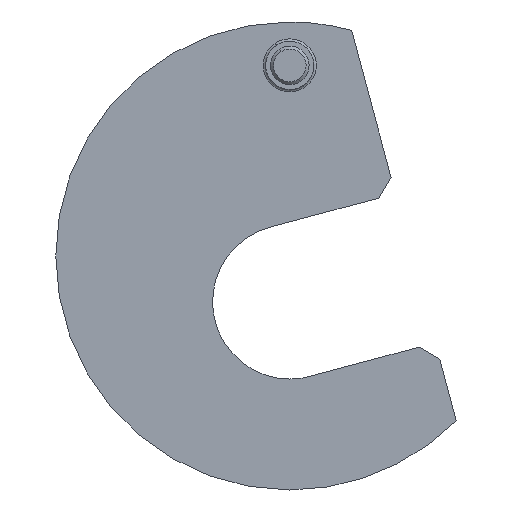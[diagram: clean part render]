
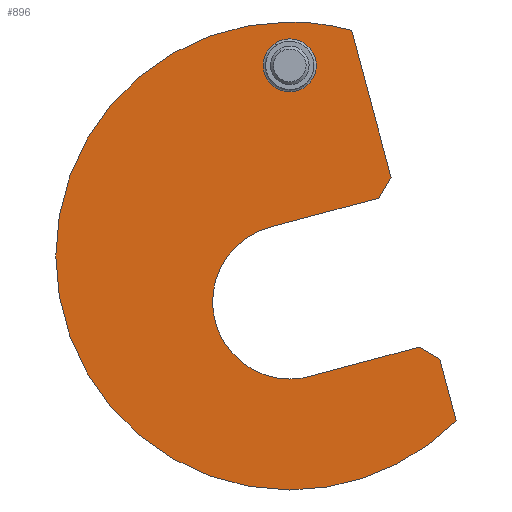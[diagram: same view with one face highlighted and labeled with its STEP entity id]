
A CAD part, front view. The second image highlights one B-rep face of the part: STEP entity #896.
In plain terms, the highlighted planar face has unit normal (0, -1, 0).
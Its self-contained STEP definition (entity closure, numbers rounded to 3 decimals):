
#252 = VERTEX_POINT ( 'NONE', #824 ) ;
#253 = EDGE_CURVE ( 'NONE', #252, #900, #822, .T. ) ;
#267 = EDGE_CURVE ( 'NONE', #272, #271, #847, .T. ) ;
#271 = VERTEX_POINT ( 'NONE', #840 ) ;
#272 = VERTEX_POINT ( 'NONE', #839 ) ;
#274 = ORIENTED_EDGE ( 'NONE', *, *, #253, .F. ) ;
#275 = ORIENTED_EDGE ( 'NONE', *, *, #314, .F. ) ;
#276 = VERTEX_POINT ( 'NONE', #834 ) ;
#278 = EDGE_CURVE ( 'NONE', #333, #276, #833, .T. ) ;
#279 = ORIENTED_EDGE ( 'NONE', *, *, #320, .F. ) ;
#296 = VERTEX_POINT ( 'NONE', #912 ) ;
#301 = EDGE_CURVE ( 'NONE', #296, #272, #964, .T. ) ;
#314 = EDGE_CURVE ( 'NONE', #336, #252, #998, .T. ) ;
#315 = EDGE_LOOP ( 'NONE', ( #324, #322 ) ) ;
#317 = EDGE_CURVE ( 'NONE', #895, #880, #993, .T. ) ;
#320 = EDGE_CURVE ( 'NONE', #900, #276, #988, .T. ) ;
#322 = ORIENTED_EDGE ( 'NONE', *, *, #317, .T. ) ;
#324 = ORIENTED_EDGE ( 'NONE', *, *, #883, .T. ) ;
#332 = EDGE_CURVE ( 'NONE', #271, #344, #1027, .T. ) ;
#333 = VERTEX_POINT ( 'NONE', #1023 ) ;
#334 = ORIENTED_EDGE ( 'NONE', *, *, #278, .T. ) ;
#335 = ORIENTED_EDGE ( 'NONE', *, *, #337, .F. ) ;
#336 = VERTEX_POINT ( 'NONE', #1022 ) ;
#337 = EDGE_CURVE ( 'NONE', #341, #296, #1021, .T. ) ;
#338 = ORIENTED_EDGE ( 'NONE', *, *, #332, .F. ) ;
#339 = ORIENTED_EDGE ( 'NONE', *, *, #342, .F. ) ;
#340 = ORIENTED_EDGE ( 'NONE', *, *, #343, .T. ) ;
#341 = VERTEX_POINT ( 'NONE', #1016 ) ;
#342 = EDGE_CURVE ( 'NONE', #333, #341, #1015, .T. ) ;
#343 = EDGE_CURVE ( 'NONE', #355, #344, #1011, .T. ) ;
#344 = VERTEX_POINT ( 'NONE', #1007 ) ;
#345 = EDGE_CURVE ( 'NONE', #355, #336, #1006, .T. ) ;
#351 = ORIENTED_EDGE ( 'NONE', *, *, #267, .F. ) ;
#354 = ORIENTED_EDGE ( 'NONE', *, *, #301, .F. ) ;
#355 = VERTEX_POINT ( 'NONE', #1059 ) ;
#818 = DIRECTION ( 'NONE',  ( 0., 0., 1. ) ) ;
#819 = DIRECTION ( 'NONE',  ( 0., -1., 0. ) ) ;
#820 = CARTESIAN_POINT ( 'NONE',  ( 0., 0., -9.5 ) ) ;
#821 = AXIS2_PLACEMENT_3D ( 'NONE', #820, #819, #818 ) ;
#822 = CIRCLE ( 'NONE', #821, 16. ) ;
#824 = CARTESIAN_POINT ( 'NONE',  ( 0., 0., -25.5 ) ) ;
#830 = DIRECTION ( 'NONE',  ( -0.866, 0., 0.5 ) ) ;
#831 = VECTOR ( 'NONE', #830, 1000. ) ;
#832 = CARTESIAN_POINT ( 'NONE',  ( 31.087, 0., -21.358 ) ) ;
#833 = LINE ( 'NONE', #832, #831 ) ;
#834 = CARTESIAN_POINT ( 'NONE',  ( 26.801, 0., -18.883 ) ) ;
#839 = CARTESIAN_POINT ( 'NONE',  ( 0., 0., 48.5 ) ) ;
#840 = CARTESIAN_POINT ( 'NONE',  ( 12.832, 0., 46.772 ) ) ;
#843 = DIRECTION ( 'NONE',  ( 0., 0., 1. ) ) ;
#844 = DIRECTION ( 'NONE',  ( 0., 1., 0. ) ) ;
#845 = CARTESIAN_POINT ( 'NONE',  ( 0., 0., 0. ) ) ;
#846 = AXIS2_PLACEMENT_3D ( 'NONE', #845, #844, #843 ) ;
#847 = CIRCLE ( 'NONE', #846, 48.5 ) ;
#880 = VERTEX_POINT ( 'NONE', #1091 ) ;
#883 = EDGE_CURVE ( 'NONE', #880, #895, #1090, .T. ) ;
#891 = ORIENTED_EDGE ( 'NONE', *, *, #345, .F. ) ;
#892 = EDGE_LOOP ( 'NONE', ( #891, #340, #338, #351, #354, #335, #339, #334, #279, #274, #275 ) ) ;
#895 = VERTEX_POINT ( 'NONE', #1069 ) ;
#896 = ADVANCED_FACE ( 'NONE', ( #1068, #1067 ), #1066, .F. ) ;
#900 = VERTEX_POINT ( 'NONE', #1110 ) ;
#912 = CARTESIAN_POINT ( 'NONE',  ( 0., 0., -48.5 ) ) ;
#956 = DIRECTION ( 'NONE',  ( 0., 0., 1. ) ) ;
#957 = DIRECTION ( 'NONE',  ( 0., 1., 0. ) ) ;
#958 = CARTESIAN_POINT ( 'NONE',  ( 0., 0., 0. ) ) ;
#959 = AXIS2_PLACEMENT_3D ( 'NONE', #958, #957, #956 ) ;
#964 = CIRCLE ( 'NONE', #959, 48.5 ) ;
#985 = DIRECTION ( 'NONE',  ( 0.966, 0., 0.259 ) ) ;
#986 = VECTOR ( 'NONE', #985, 1000. ) ;
#987 = CARTESIAN_POINT ( 'NONE',  ( 4.141, 0., -24.955 ) ) ;
#988 = LINE ( 'NONE', #987, #986 ) ;
#989 = DIRECTION ( 'NONE',  ( 0., 0., 1. ) ) ;
#990 = DIRECTION ( 'NONE',  ( 0., 1., 0. ) ) ;
#991 = CARTESIAN_POINT ( 'NONE',  ( 0., 0., 39.5 ) ) ;
#992 = AXIS2_PLACEMENT_3D ( 'NONE', #991, #990, #989 ) ;
#993 = CIRCLE ( 'NONE', #992, 5.5 ) ;
#994 = DIRECTION ( 'NONE',  ( 0., 0., 1. ) ) ;
#995 = DIRECTION ( 'NONE',  ( 0., -1., 0. ) ) ;
#996 = CARTESIAN_POINT ( 'NONE',  ( 0., 0., -9.5 ) ) ;
#997 = AXIS2_PLACEMENT_3D ( 'NONE', #996, #995, #994 ) ;
#998 = CIRCLE ( 'NONE', #997, 16. ) ;
#1003 = DIRECTION ( 'NONE',  ( -0.966, 0., -0.259 ) ) ;
#1004 = VECTOR ( 'NONE', #1003, 1000. ) ;
#1005 = CARTESIAN_POINT ( 'NONE',  ( -4.141, 0., 5.955 ) ) ;
#1006 = LINE ( 'NONE', #1005, #1004 ) ;
#1007 = CARTESIAN_POINT ( 'NONE',  ( 20.993, 0., 16.313 ) ) ;
#1008 = DIRECTION ( 'NONE',  ( 0.5, 0., 0.866 ) ) ;
#1009 = VECTOR ( 'NONE', #1008, 1000. ) ;
#1010 = CARTESIAN_POINT ( 'NONE',  ( 18.518, 0., 12.026 ) ) ;
#1011 = LINE ( 'NONE', #1010, #1009 ) ;
#1012 = DIRECTION ( 'NONE',  ( 0.259, 0., -0.966 ) ) ;
#1013 = VECTOR ( 'NONE', #1012, 1000. ) ;
#1014 = CARTESIAN_POINT ( 'NONE',  ( 30.181, 0., -17.977 ) ) ;
#1015 = LINE ( 'NONE', #1014, #1013 ) ;
#1016 = CARTESIAN_POINT ( 'NONE',  ( 34.499, 0., -34.09 ) ) ;
#1017 = DIRECTION ( 'NONE',  ( 0., 0., 1. ) ) ;
#1018 = DIRECTION ( 'NONE',  ( 0., 1., 0. ) ) ;
#1019 = CARTESIAN_POINT ( 'NONE',  ( 0., 0., 0. ) ) ;
#1020 = AXIS2_PLACEMENT_3D ( 'NONE', #1019, #1018, #1017 ) ;
#1021 = CIRCLE ( 'NONE', #1020, 48.5 ) ;
#1022 = CARTESIAN_POINT ( 'NONE',  ( -4.141, 0., 5.955 ) ) ;
#1023 = CARTESIAN_POINT ( 'NONE',  ( 31.087, 0., -21.358 ) ) ;
#1024 = DIRECTION ( 'NONE',  ( 0.259, 0., -0.966 ) ) ;
#1025 = VECTOR ( 'NONE', #1024, 1000. ) ;
#1026 = CARTESIAN_POINT ( 'NONE',  ( 12.832, 0., 46.772 ) ) ;
#1027 = LINE ( 'NONE', #1026, #1025 ) ;
#1059 = CARTESIAN_POINT ( 'NONE',  ( 18.518, 0., 12.026 ) ) ;
#1062 = DIRECTION ( 'NONE',  ( 0., 0., 1. ) ) ;
#1063 = DIRECTION ( 'NONE',  ( 0., 1., 0. ) ) ;
#1064 = CARTESIAN_POINT ( 'NONE',  ( 0., 0., 0. ) ) ;
#1065 = AXIS2_PLACEMENT_3D ( 'NONE', #1064, #1063, #1062 ) ;
#1066 = PLANE ( 'NONE',  #1065 ) ;
#1067 = FACE_BOUND ( 'NONE', #315, .T. ) ;
#1068 = FACE_OUTER_BOUND ( 'NONE', #892, .T. ) ;
#1069 = CARTESIAN_POINT ( 'NONE',  ( 0., 0., 45. ) ) ;
#1086 = DIRECTION ( 'NONE',  ( 0., 0., 1. ) ) ;
#1087 = DIRECTION ( 'NONE',  ( 0., 1., 0. ) ) ;
#1088 = CARTESIAN_POINT ( 'NONE',  ( 0., 0., 39.5 ) ) ;
#1089 = AXIS2_PLACEMENT_3D ( 'NONE', #1088, #1087, #1086 ) ;
#1090 = CIRCLE ( 'NONE', #1089, 5.5 ) ;
#1091 = CARTESIAN_POINT ( 'NONE',  ( 0., 0., 34. ) ) ;
#1110 = CARTESIAN_POINT ( 'NONE',  ( 4.141, 0., -24.955 ) ) ;
